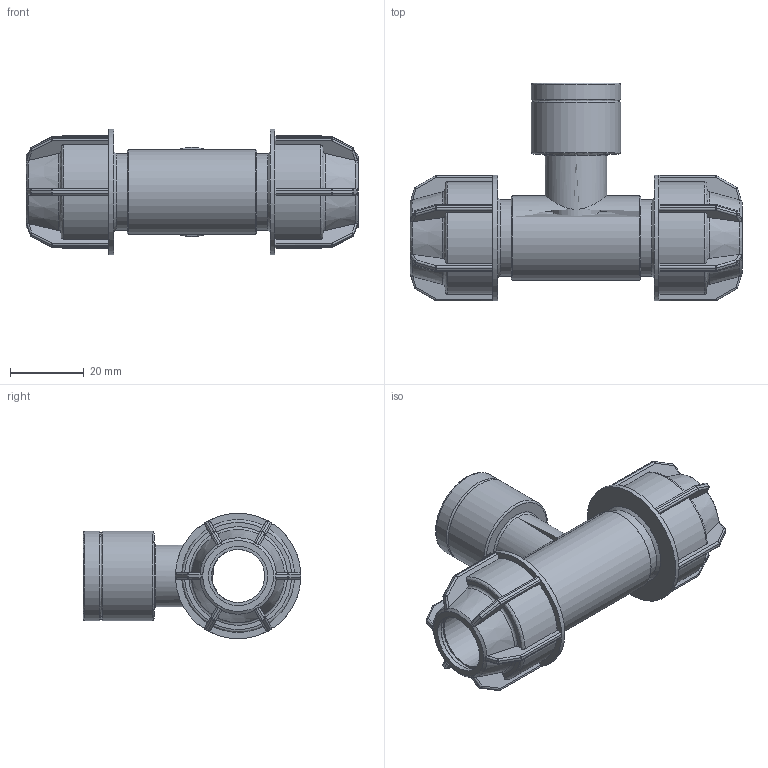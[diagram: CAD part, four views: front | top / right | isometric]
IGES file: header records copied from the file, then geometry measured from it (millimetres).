
Global section: file name: 041407016005.ipt; native system: Autodesk Inventor 2015; preprocessor: unknown; author: KIM; date: 20180409.130646; units: millimetre
Bounding box: 90 x 59 x 34 mm (x, y, z)
Volume: 35324.9 mm3; surface area: 19177.9 mm2
Topology: 1 solids, 1 shells, 417 faces, 1017 edges, 596 vertices
Faces by surface type: plane 198, cylinder 116, sphere 48, revolution 39, cone 16
Full cylindrical faces by diameter (mm): 16.768 x1, 20.8 x2, 22.88 x1, 24.22 x2, 34 x2
